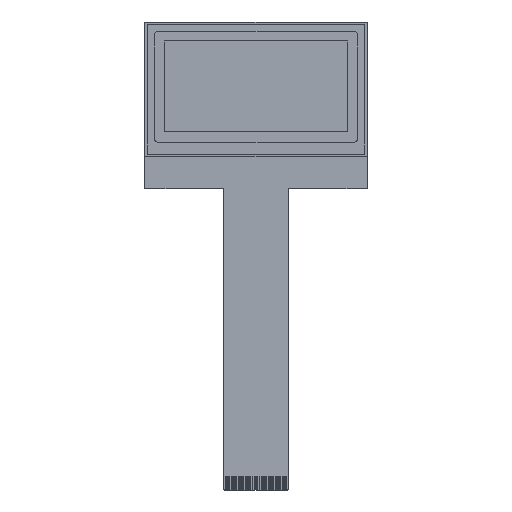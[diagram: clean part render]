
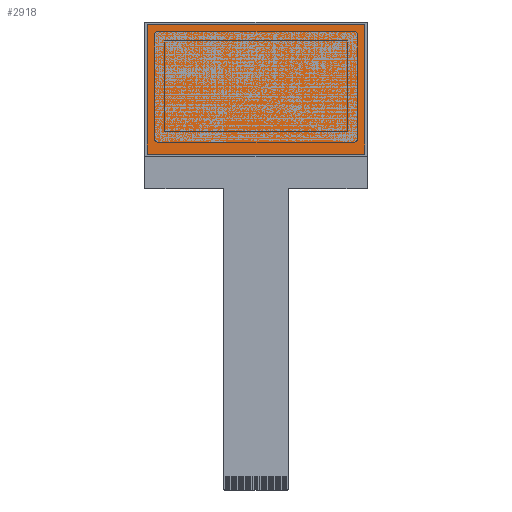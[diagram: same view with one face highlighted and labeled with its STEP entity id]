
A CAD part, top view. The second image highlights one B-rep face of the part: STEP entity #2918.
In plain terms, the highlighted planar face has unit normal (0, 0, 1).
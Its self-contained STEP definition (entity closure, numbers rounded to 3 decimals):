
#228 = VERTEX_POINT ( 'NONE', #353 ) ;
#266 = CARTESIAN_POINT ( 'NONE',  ( 23.5, 17.5, 1.6 ) ) ;
#285 = AXIS2_PLACEMENT_3D ( 'NONE', #1658, #1276, #3092 ) ;
#348 = ORIENTED_EDGE ( 'NONE', *, *, #3273, .T. ) ;
#353 = CARTESIAN_POINT ( 'NONE',  ( 23.5, 17.5, 1.6 ) ) ;
#634 = CARTESIAN_POINT ( 'NONE',  ( -23.5, -10.5, 1.6 ) ) ;
#971 = VECTOR ( 'NONE', #2208, 1000. ) ;
#973 = ORIENTED_EDGE ( 'NONE', *, *, #1358, .T. ) ;
#981 = VECTOR ( 'NONE', #1009, 1000. ) ;
#1009 = DIRECTION ( 'NONE',  ( 0., 1., 0. ) ) ;
#1069 = CARTESIAN_POINT ( 'NONE',  ( -23.5, -10.5, 1.6 ) ) ;
#1276 = DIRECTION ( 'NONE',  ( 0., 0., 1. ) ) ;
#1358 = EDGE_CURVE ( 'NONE', #2315, #2231, #2924, .T. ) ;
#1394 = CARTESIAN_POINT ( 'NONE',  ( 23.5, -10.5, 1.6 ) ) ;
#1420 = CARTESIAN_POINT ( 'NONE',  ( -23.5, 17.5, 1.6 ) ) ;
#1531 = EDGE_CURVE ( 'NONE', #2242, #228, #3961, .T. ) ;
#1605 = EDGE_CURVE ( 'NONE', #228, #2315, #2623, .T. ) ;
#1633 = VECTOR ( 'NONE', #2217, 1000. ) ;
#1658 = CARTESIAN_POINT ( 'NONE',  ( 0., 0., 1.6 ) ) ;
#1730 = ORIENTED_EDGE ( 'NONE', *, *, #1605, .T. ) ;
#1951 = CARTESIAN_POINT ( 'NONE',  ( -23.5, 17.5, 1.6 ) ) ;
#2208 = DIRECTION ( 'NONE',  ( 1., 0., 0. ) ) ;
#2217 = DIRECTION ( 'NONE',  ( -1., 0., 0. ) ) ;
#2231 = VERTEX_POINT ( 'NONE', #634 ) ;
#2242 = VERTEX_POINT ( 'NONE', #1394 ) ;
#2315 = VERTEX_POINT ( 'NONE', #1420 ) ;
#2496 = FACE_OUTER_BOUND ( 'NONE', #2955, .T. ) ;
#2623 = LINE ( 'NONE', #1951, #1633 ) ;
#2755 = CARTESIAN_POINT ( 'NONE',  ( -23.5, 17.5, 1.6 ) ) ;
#2918 = ADVANCED_FACE ( 'NONE', ( #2496 ), #4305, .T. ) ;
#2924 = LINE ( 'NONE', #2755, #3802 ) ;
#2955 = EDGE_LOOP ( 'NONE', ( #973, #348, #3969, #1730 ) ) ;
#3092 = DIRECTION ( 'NONE',  ( 1., 0., 0. ) ) ;
#3273 = EDGE_CURVE ( 'NONE', #2231, #2242, #3951, .T. ) ;
#3489 = DIRECTION ( 'NONE',  ( 0., -1., 0. ) ) ;
#3802 = VECTOR ( 'NONE', #3489, 1000. ) ;
#3951 = LINE ( 'NONE', #1069, #971 ) ;
#3961 = LINE ( 'NONE', #266, #981 ) ;
#3969 = ORIENTED_EDGE ( 'NONE', *, *, #1531, .T. ) ;
#4305 = PLANE ( 'NONE',  #285 ) ;
